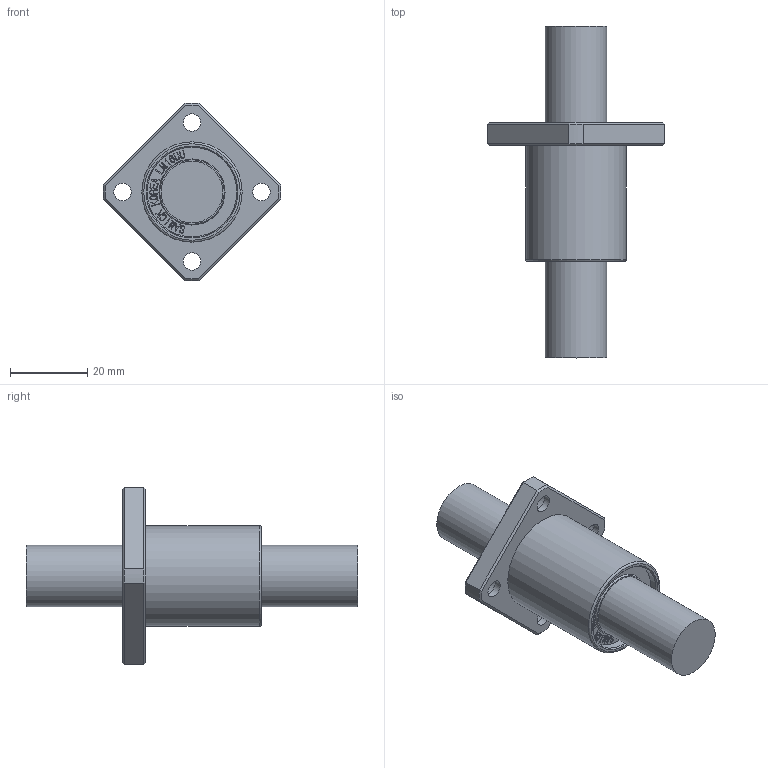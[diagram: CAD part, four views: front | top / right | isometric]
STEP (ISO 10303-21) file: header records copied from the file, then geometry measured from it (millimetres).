
FILE_DESCRIPTION(/* description */ (''),/* implementation_level */ '2;1');
FILE_NAME(/* name */ 'W:\(01) 2024년 홈페이지 CAD파일 최신화\LMEK\IPT\LMEK16UU.stp',/* time_stamp */ '2025-01-25T10:45:58+09:00',/* author */ ('서우현'),/* organization */ (''),/* preprocessor_version */ 'ST-DEVELOPER v17.2',/* originating_system */ 'Autodesk Inventor 2019',/* authorisation */ '');
FILE_SCHEMA (('AUTOMOTIVE_DESIGN { 1 0 10303 214 3 1 1 }'));
Length unit declared in the file: millimetre
Products named in the file (1): LM5
Bounding box: 45.98 x 86 x 45.98 mm (x, y, z)
Volume: 31254.3 mm3; surface area: 9113.8 mm2
Topology: 1 solids, 1 shells, 858 faces, 2408 edges, 1608 vertices
Faces by surface type: bspline 588, plane 238, cylinder 18, cone 12, torus 2
Full cylindrical faces by diameter (mm): 4.5 x4, 8 x4, 16 x2, 23.2 x2, 26 x2
Entity records: 29423 total; most frequent: CARTESIAN_POINT 10863, ORIENTED_EDGE 4816, EDGE_CURVE 2408, DIRECTION 1840, VERTEX_POINT 1608, B_SPLINE_CURVE_WITH_KNOTS 1176, LINE 1134, VECTOR 1134
